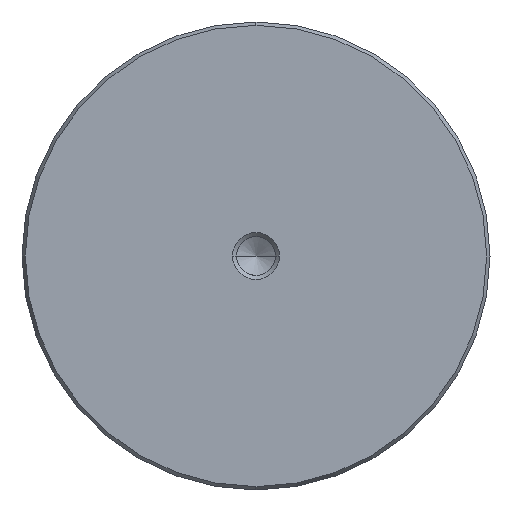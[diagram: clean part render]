
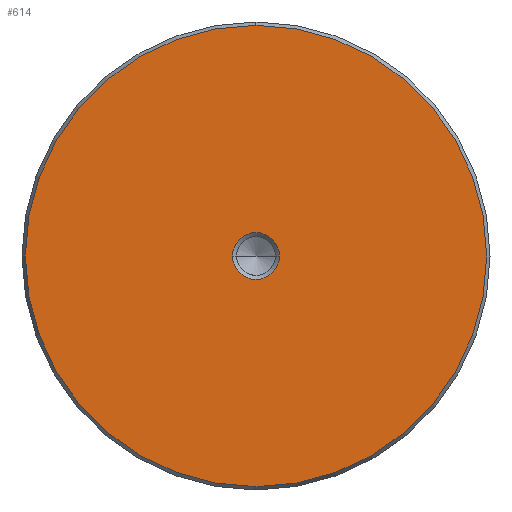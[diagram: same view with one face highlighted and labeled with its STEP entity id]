
A CAD part, left-side view. The second image highlights one B-rep face of the part: STEP entity #614.
In plain terms, the highlighted planar face has unit normal (-1, 0, 0).
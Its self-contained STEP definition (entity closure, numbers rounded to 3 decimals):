
#528=CARTESIAN_POINT('Vertex',(0.,0.,-39.423)) ;
#531=CARTESIAN_POINT('Axis2P3D Location',(0.,0.,0.)) ;
#535=CARTESIAN_POINT('Vertex',(0.,39.423,0.)) ;
#538=CARTESIAN_POINT('Axis2P3D Location',(0.,0.,0.)) ;
#542=CARTESIAN_POINT('Vertex',(0.,0.,39.423)) ;
#564=CARTESIAN_POINT('Axis2P3D Location',(0.,0.,0.)) ;
#568=CARTESIAN_POINT('Vertex',(0.,-39.423,0.)) ;
#571=CARTESIAN_POINT('Axis2P3D Location',(0.,0.,0.)) ;
#585=CARTESIAN_POINT('Axis2P3D Location',(0.,0.,0.)) ;
#596=CARTESIAN_POINT('Axis2P3D Location',(0.,0.,0.)) ;
#600=CARTESIAN_POINT('Vertex',(0.,4.,0.)) ;
#602=CARTESIAN_POINT('Vertex',(0.,-4.,0.)) ;
#605=CARTESIAN_POINT('Axis2P3D Location',(0.,0.,0.)) ;
#532=DIRECTION('Axis2P3D Direction',(1.,0.,-0.)) ;
#539=DIRECTION('Axis2P3D Direction',(1.,0.,-0.)) ;
#565=DIRECTION('Axis2P3D Direction',(1.,0.,-0.)) ;
#572=DIRECTION('Axis2P3D Direction',(1.,0.,-0.)) ;
#586=DIRECTION('Axis2P3D Direction',(1.,0.,-0.)) ;
#587=DIRECTION('Axis2P3D XDirection',(-0.,0.,-1.)) ;
#597=DIRECTION('Axis2P3D Direction',(1.,0.,-0.)) ;
#606=DIRECTION('Axis2P3D Direction',(1.,0.,-0.)) ;
#533=AXIS2_PLACEMENT_3D('Circle Axis2P3D',#531,#532,$) ;
#540=AXIS2_PLACEMENT_3D('Circle Axis2P3D',#538,#539,$) ;
#566=AXIS2_PLACEMENT_3D('Circle Axis2P3D',#564,#565,$) ;
#573=AXIS2_PLACEMENT_3D('Circle Axis2P3D',#571,#572,$) ;
#588=AXIS2_PLACEMENT_3D('Plane Axis2P3D',#585,#586,#587) ;
#598=AXIS2_PLACEMENT_3D('Circle Axis2P3D',#596,#597,$) ;
#607=AXIS2_PLACEMENT_3D('Circle Axis2P3D',#605,#606,$) ;
#591=ORIENTED_EDGE('',*,*,#537,.F.) ;
#592=ORIENTED_EDGE('',*,*,#575,.F.) ;
#593=ORIENTED_EDGE('',*,*,#570,.F.) ;
#594=ORIENTED_EDGE('',*,*,#544,.F.) ;
#611=ORIENTED_EDGE('',*,*,#604,.T.) ;
#612=ORIENTED_EDGE('',*,*,#609,.T.) ;
#613=FACE_BOUND('',#610,.T.) ;
#614=ADVANCED_FACE('720-80x280',(#595,#613),#589,.F.) ;
#534=CIRCLE('generated circle',#533,39.423) ;
#541=CIRCLE('generated circle',#540,39.423) ;
#567=CIRCLE('generated circle',#566,39.423) ;
#574=CIRCLE('generated circle',#573,39.423) ;
#599=CIRCLE('generated circle',#598,4.) ;
#608=CIRCLE('generated circle',#607,4.) ;
#537=EDGE_CURVE('',#529,#536,#534,.T.) ;
#544=EDGE_CURVE('',#536,#543,#541,.T.) ;
#570=EDGE_CURVE('',#543,#569,#567,.T.) ;
#575=EDGE_CURVE('',#569,#529,#574,.T.) ;
#604=EDGE_CURVE('',#601,#603,#599,.T.) ;
#609=EDGE_CURVE('',#603,#601,#608,.T.) ;
#590=EDGE_LOOP('',(#591,#592,#593,#594)) ;
#610=EDGE_LOOP('',(#611,#612)) ;
#595=FACE_OUTER_BOUND('',#590,.T.) ;
#589=PLANE('Plane',#588) ;
#529=VERTEX_POINT('',#528) ;
#536=VERTEX_POINT('',#535) ;
#543=VERTEX_POINT('',#542) ;
#569=VERTEX_POINT('',#568) ;
#601=VERTEX_POINT('',#600) ;
#603=VERTEX_POINT('',#602) ;
